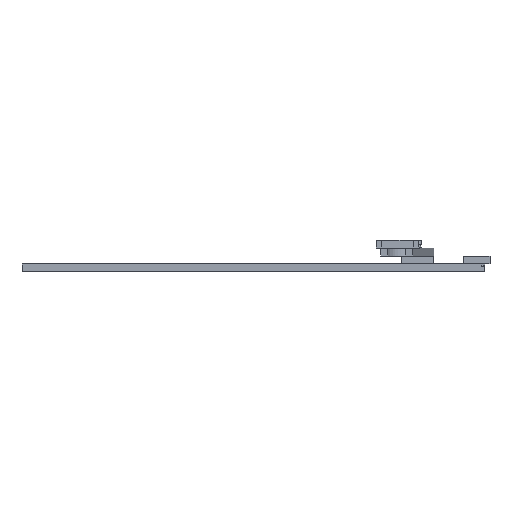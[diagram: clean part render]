
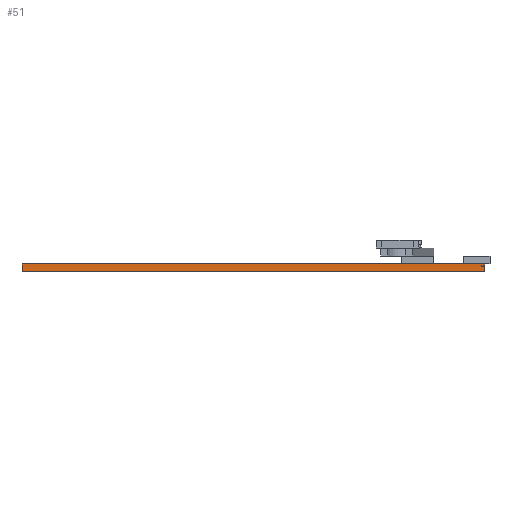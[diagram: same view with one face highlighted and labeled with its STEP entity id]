
A CAD part, left-side view. The second image highlights one B-rep face of the part: STEP entity #51.
In plain terms, the highlighted planar face has unit normal (-1, 0, 0).
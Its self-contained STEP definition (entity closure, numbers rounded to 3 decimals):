
#51 = ADVANCED_FACE('',(#52),#66,.F.);
#52 = FACE_BOUND('',#53,.F.);
#53 = EDGE_LOOP('',(#54,#89,#117,#145));
#54 = ORIENTED_EDGE('',*,*,#55,.F.);
#55 = EDGE_CURVE('',#56,#58,#60,.T.);
#56 = VERTEX_POINT('',#57);
#57 = CARTESIAN_POINT('',(-60.,0.,0.));
#58 = VERTEX_POINT('',#59);
#59 = CARTESIAN_POINT('',(-60.,0.,3.));
#60 = SURFACE_CURVE('',#61,(#65,#77),.PCURVE_S1.);
#61 = LINE('',#62,#63);
#62 = CARTESIAN_POINT('',(-60.,0.,0.));
#63 = VECTOR('',#64,1.);
#64 = DIRECTION('',(0.,0.,1.));
#65 = PCURVE('',#66,#71);
#66 = PLANE('',#67);
#67 = AXIS2_PLACEMENT_3D('',#68,#69,#70);
#68 = CARTESIAN_POINT('',(-60.,0.,0.));
#69 = DIRECTION('',(1.,0.,-0.));
#70 = DIRECTION('',(0.,0.,1.));
#71 = DEFINITIONAL_REPRESENTATION('',(#72),#76);
#72 = LINE('',#73,#74);
#73 = CARTESIAN_POINT('',(0.,0.));
#74 = VECTOR('',#75,1.);
#75 = DIRECTION('',(1.,0.));
#76 = ( GEOMETRIC_REPRESENTATION_CONTEXT(2) 
PARAMETRIC_REPRESENTATION_CONTEXT() REPRESENTATION_CONTEXT('2D SPACE',''
  ) );
#77 = PCURVE('',#78,#83);
#78 = PLANE('',#79);
#79 = AXIS2_PLACEMENT_3D('',#80,#81,#82);
#80 = CARTESIAN_POINT('',(-60.,0.,0.));
#81 = DIRECTION('',(-0.,1.,0.));
#82 = DIRECTION('',(0.,0.,1.));
#83 = DEFINITIONAL_REPRESENTATION('',(#84),#88);
#84 = LINE('',#85,#86);
#85 = CARTESIAN_POINT('',(0.,0.));
#86 = VECTOR('',#87,1.);
#87 = DIRECTION('',(1.,0.));
#88 = ( GEOMETRIC_REPRESENTATION_CONTEXT(2) 
PARAMETRIC_REPRESENTATION_CONTEXT() REPRESENTATION_CONTEXT('2D SPACE',''
  ) );
#89 = ORIENTED_EDGE('',*,*,#90,.T.);
#90 = EDGE_CURVE('',#56,#91,#93,.T.);
#91 = VERTEX_POINT('',#92);
#92 = CARTESIAN_POINT('',(-60.,175.,0.));
#93 = SURFACE_CURVE('',#94,(#98,#105),.PCURVE_S1.);
#94 = LINE('',#95,#96);
#95 = CARTESIAN_POINT('',(-60.,0.,0.));
#96 = VECTOR('',#97,1.);
#97 = DIRECTION('',(-0.,1.,0.));
#98 = PCURVE('',#66,#99);
#99 = DEFINITIONAL_REPRESENTATION('',(#100),#104);
#100 = LINE('',#101,#102);
#101 = CARTESIAN_POINT('',(0.,0.));
#102 = VECTOR('',#103,1.);
#103 = DIRECTION('',(0.,-1.));
#104 = ( GEOMETRIC_REPRESENTATION_CONTEXT(2) 
PARAMETRIC_REPRESENTATION_CONTEXT() REPRESENTATION_CONTEXT('2D SPACE',''
  ) );
#105 = PCURVE('',#106,#111);
#106 = PLANE('',#107);
#107 = AXIS2_PLACEMENT_3D('',#108,#109,#110);
#108 = CARTESIAN_POINT('',(-60.,0.,0.));
#109 = DIRECTION('',(0.,0.,1.));
#110 = DIRECTION('',(1.,0.,-0.));
#111 = DEFINITIONAL_REPRESENTATION('',(#112),#116);
#112 = LINE('',#113,#114);
#113 = CARTESIAN_POINT('',(0.,0.));
#114 = VECTOR('',#115,1.);
#115 = DIRECTION('',(0.,1.));
#116 = ( GEOMETRIC_REPRESENTATION_CONTEXT(2) 
PARAMETRIC_REPRESENTATION_CONTEXT() REPRESENTATION_CONTEXT('2D SPACE',''
  ) );
#117 = ORIENTED_EDGE('',*,*,#118,.T.);
#118 = EDGE_CURVE('',#91,#119,#121,.T.);
#119 = VERTEX_POINT('',#120);
#120 = CARTESIAN_POINT('',(-60.,175.,3.));
#121 = SURFACE_CURVE('',#122,(#126,#133),.PCURVE_S1.);
#122 = LINE('',#123,#124);
#123 = CARTESIAN_POINT('',(-60.,175.,0.));
#124 = VECTOR('',#125,1.);
#125 = DIRECTION('',(0.,0.,1.));
#126 = PCURVE('',#66,#127);
#127 = DEFINITIONAL_REPRESENTATION('',(#128),#132);
#128 = LINE('',#129,#130);
#129 = CARTESIAN_POINT('',(0.,-175.));
#130 = VECTOR('',#131,1.);
#131 = DIRECTION('',(1.,0.));
#132 = ( GEOMETRIC_REPRESENTATION_CONTEXT(2) 
PARAMETRIC_REPRESENTATION_CONTEXT() REPRESENTATION_CONTEXT('2D SPACE',''
  ) );
#133 = PCURVE('',#134,#139);
#134 = PLANE('',#135);
#135 = AXIS2_PLACEMENT_3D('',#136,#137,#138);
#136 = CARTESIAN_POINT('',(-60.,175.,0.));
#137 = DIRECTION('',(-0.,1.,0.));
#138 = DIRECTION('',(0.,0.,1.));
#139 = DEFINITIONAL_REPRESENTATION('',(#140),#144);
#140 = LINE('',#141,#142);
#141 = CARTESIAN_POINT('',(0.,0.));
#142 = VECTOR('',#143,1.);
#143 = DIRECTION('',(1.,0.));
#144 = ( GEOMETRIC_REPRESENTATION_CONTEXT(2) 
PARAMETRIC_REPRESENTATION_CONTEXT() REPRESENTATION_CONTEXT('2D SPACE',''
  ) );
#145 = ORIENTED_EDGE('',*,*,#146,.F.);
#146 = EDGE_CURVE('',#58,#119,#147,.T.);
#147 = SURFACE_CURVE('',#148,(#152,#159),.PCURVE_S1.);
#148 = LINE('',#149,#150);
#149 = CARTESIAN_POINT('',(-60.,0.,3.));
#150 = VECTOR('',#151,1.);
#151 = DIRECTION('',(-0.,1.,0.));
#152 = PCURVE('',#66,#153);
#153 = DEFINITIONAL_REPRESENTATION('',(#154),#158);
#154 = LINE('',#155,#156);
#155 = CARTESIAN_POINT('',(3.,0.));
#156 = VECTOR('',#157,1.);
#157 = DIRECTION('',(0.,-1.));
#158 = ( GEOMETRIC_REPRESENTATION_CONTEXT(2) 
PARAMETRIC_REPRESENTATION_CONTEXT() REPRESENTATION_CONTEXT('2D SPACE',''
  ) );
#159 = PCURVE('',#160,#165);
#160 = PLANE('',#161);
#161 = AXIS2_PLACEMENT_3D('',#162,#163,#164);
#162 = CARTESIAN_POINT('',(-60.,0.,3.));
#163 = DIRECTION('',(0.,0.,1.));
#164 = DIRECTION('',(1.,0.,-0.));
#165 = DEFINITIONAL_REPRESENTATION('',(#166),#170);
#166 = LINE('',#167,#168);
#167 = CARTESIAN_POINT('',(0.,0.));
#168 = VECTOR('',#169,1.);
#169 = DIRECTION('',(0.,1.));
#170 = ( GEOMETRIC_REPRESENTATION_CONTEXT(2) 
PARAMETRIC_REPRESENTATION_CONTEXT() REPRESENTATION_CONTEXT('2D SPACE',''
  ) );
